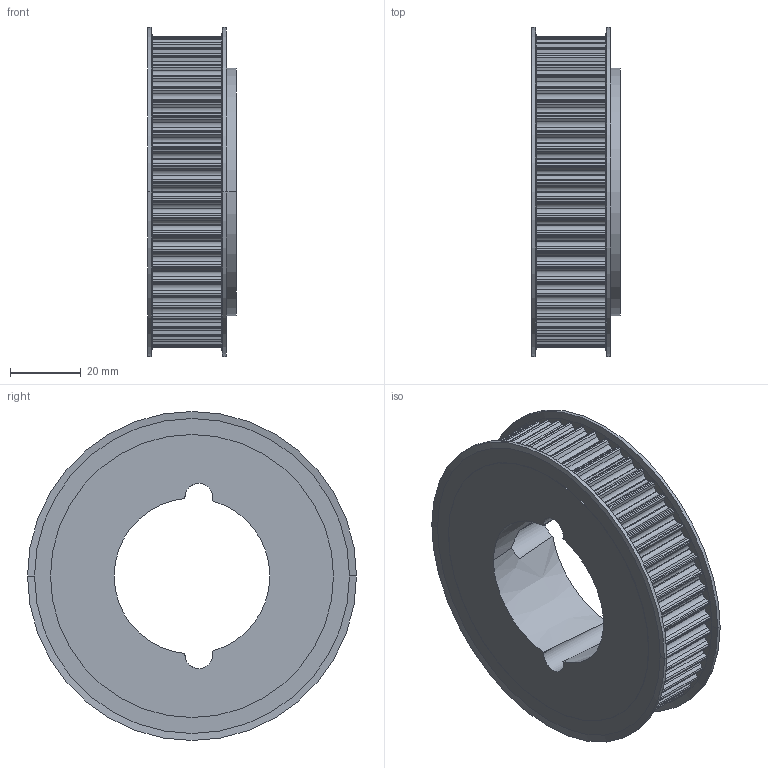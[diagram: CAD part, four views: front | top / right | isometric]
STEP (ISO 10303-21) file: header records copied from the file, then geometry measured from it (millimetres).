
FILE_DESCRIPTION( ( '' ), '1' );
FILE_NAME( 'C:/Users/Stangenbergd/Documents/CAD_Step/1/17277356.stp', '2021-10-19T10:06:26', ( '' ), ( '' ), ' ', ' ', ' ' );
FILE_SCHEMA( ( 'CONFIG_CONTROL_DESIGN' ) );
Length unit declared in the file: millimetre
Products named in the file (1): 1
Bounding box: 25.13 x 93 x 93 mm (x, y, z)
Volume: 97379.4 mm3; surface area: 25108.5 mm2
Topology: 1 solids, 1 shells, 487 faces, 1430 edges, 950 vertices
Faces by surface type: cylinder 298, plane 175, cone 14
Entity records: 16580 total; most frequent: DIRECTION 3002, CARTESIAN_POINT 2992, ORIENTED_EDGE 2860, EDGE_CURVE 1430, AXIS2_PLACEMENT_3D 1096, VERTEX_POINT 950, LINE 810, VECTOR 810
